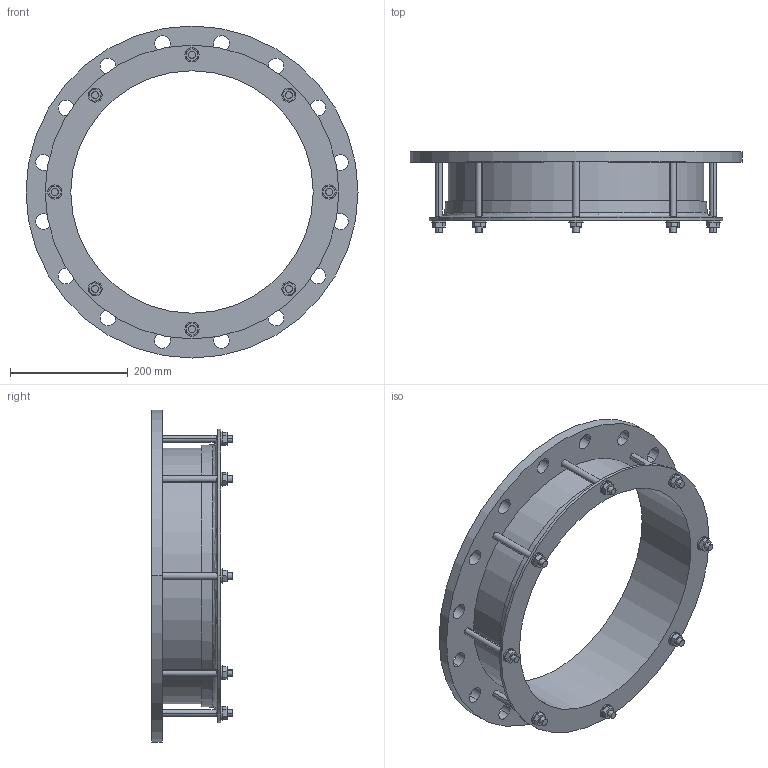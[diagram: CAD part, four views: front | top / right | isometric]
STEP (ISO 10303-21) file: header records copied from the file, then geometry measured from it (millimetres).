
FILE_DESCRIPTION((''),'2;1');
FILE_NAME('409X400PN10','2019-01-16T',('mfairey'),('Glynwed Pipe Systems'),'CREO PARAMETRIC BY PTC INC, 2016130','CREO PARAMETRIC BY PTC INC, 2016130','');
FILE_SCHEMA(('CONFIG_CONTROL_DESIGN'));
Length unit declared in the file: millimetre
Products named in the file (1): 409X400PN10
Bounding box: 565 x 137.45 x 565 mm (x, y, z)
Volume: 4053802.5 mm3; surface area: 683710.4 mm2
Topology: 1 solids, 1 shells, 170 faces, 446 edges, 296 vertices
Faces by surface type: cylinder 88, plane 76, cone 4, torus 2
Entity records: 5836 total; most frequent: CARTESIAN_POINT 1390, DIRECTION 924, ORIENTED_EDGE 892, EDGE_CURVE 446, AXIS2_PLACEMENT_3D 344, VERTEX_POINT 296, EDGE_LOOP 238, VECTOR 236
